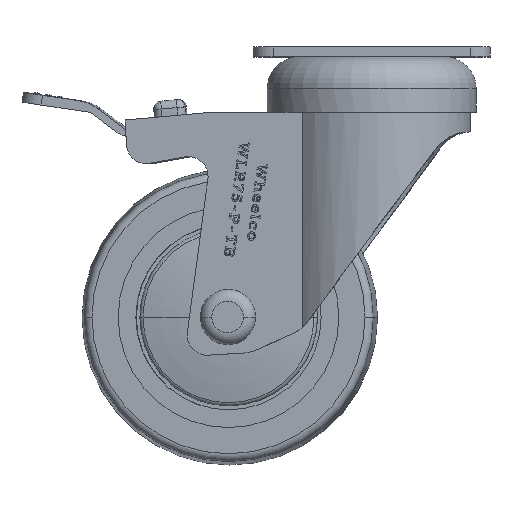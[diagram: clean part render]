
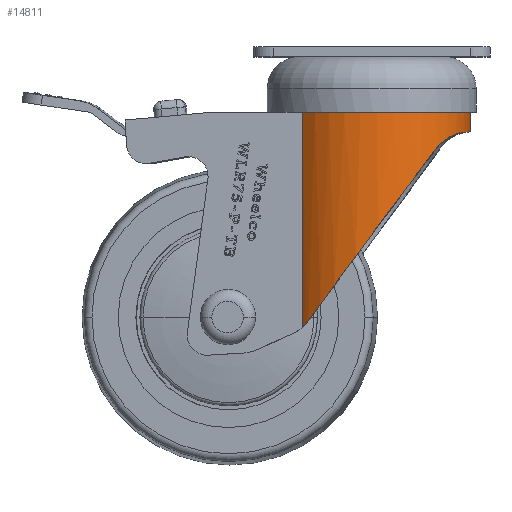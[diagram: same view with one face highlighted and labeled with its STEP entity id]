
A CAD part, top view. The second image highlights one B-rep face of the part: STEP entity #14811.
In plain terms, the highlighted cylindrical face has radius 25 mm (diameter 50 mm), a partial arc.
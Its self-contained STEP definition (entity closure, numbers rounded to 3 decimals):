
#33 = DIRECTION ( 'NONE',  ( 0., -1., 0. ) ) ;
#974 = CARTESIAN_POINT ( 'NONE',  ( -11.979, 5.485, -21.948 ) ) ;
#1087 = VERTEX_POINT ( 'NONE', #1194 ) ;
#1194 = CARTESIAN_POINT ( 'NONE',  ( -18.329, 9.043, -17.001 ) ) ;
#1326 = VERTEX_POINT ( 'NONE', #1745 ) ;
#1745 = CARTESIAN_POINT ( 'NONE',  ( 0., 5., -25. ) ) ;
#1767 = CARTESIAN_POINT ( 'NONE',  ( 0., 65., -25. ) ) ;
#1947 = DIRECTION ( 'NONE',  ( 0., 1., 0. ) ) ;
#2333 = VERTEX_POINT ( 'NONE', #18286 ) ;
#2493 =( BOUNDED_CURVE ( )  B_SPLINE_CURVE ( 3, ( #26680, #5559, #26821, #24751 ),
 .UNSPECIFIED., .F., .T. ) 
 B_SPLINE_CURVE_WITH_KNOTS ( ( 4, 4 ),
 ( 0.823, 2.242 ),
 .UNSPECIFIED. ) 
 CURVE ( )  GEOMETRIC_REPRESENTATION_ITEM ( )  RATIONAL_B_SPLINE_CURVE ( ( 1., 0.839, 0.839, 1. ) ) 
 REPRESENTATION_ITEM ( '' )  );
#2772 = EDGE_CURVE ( 'NONE', #21438, #18584, #7830, .T. ) ;
#3196 = CARTESIAN_POINT ( 'NONE',  ( 0., 5., -25. ) ) ;
#3517 = CARTESIAN_POINT ( 'NONE',  ( -18.25, 54.578, 17.086 ) ) ;
#3656 = CARTESIAN_POINT ( 'NONE',  ( -16.521, 7.199, -18.768 ) ) ;
#3791 = VECTOR ( 'NONE', #18597, 1000. ) ;
#3804 = CARTESIAN_POINT ( 'NONE',  ( -18.757, 54.114, 16.544 ) ) ;
#3891 = ORIENTED_EDGE ( 'NONE', *, *, #9387, .F. ) ;
#4619 = CARTESIAN_POINT ( 'NONE',  ( -16.215, 6.994, -19.033 ) ) ;
#4761 = CARTESIAN_POINT ( 'NONE',  ( -4.439, 5.007, -24.619 ) ) ;
#5072 = CIRCLE ( 'NONE', #26816, 25. ) ;
#5559 = CARTESIAN_POINT ( 'NONE',  ( -27.132, 21.837, -7.512 ) ) ;
#5905 = CARTESIAN_POINT ( 'NONE',  ( -19.571, 52.937, 15.556 ) ) ;
#6172 = DIRECTION ( 'NONE',  ( 0., 0., -1. ) ) ;
#6417 = DIRECTION ( 'NONE',  ( 0., 0., 1. ) ) ;
#6586 = CARTESIAN_POINT ( 'NONE',  ( -18.329, 9.043, -17.001 ) ) ;
#6623 = ORIENTED_EDGE ( 'NONE', *, *, #23636, .T. ) ;
#7108 = CARTESIAN_POINT ( 'NONE',  ( -11.191, 5.362, -22.36 ) ) ;
#7245 = CARTESIAN_POINT ( 'NONE',  ( -1.784, 5., -24.952 ) ) ;
#7264 = AXIS2_PLACEMENT_3D ( 'NONE', #16578, #33, #6172 ) ;
#7390 = CARTESIAN_POINT ( 'NONE',  ( -12.369, 5.558, -21.73 ) ) ;
#7704 = CARTESIAN_POINT ( 'NONE',  ( -19.196, 53.573, 16.027 ) ) ;
#7830 = LINE ( 'NONE', #27461, #21147 ) ;
#8181 = CARTESIAN_POINT ( 'NONE',  ( -19.571, 52.937, 15.556 ) ) ;
#9020 = ORIENTED_EDGE ( 'NONE', *, *, #2772, .F. ) ;
#9204 = CARTESIAN_POINT ( 'NONE',  ( -5.756, 5.024, -24.332 ) ) ;
#9387 = EDGE_CURVE ( 'NONE', #1087, #9652, #2493, .T. ) ;
#9652 = VERTEX_POINT ( 'NONE', #8181 ) ;
#10323 = FACE_OUTER_BOUND ( 'NONE', #10779, .T. ) ;
#10779 = EDGE_LOOP ( 'NONE', ( #15226, #12574, #23758, #9020, #6623, #3891 ) ) ;
#10913 = EDGE_CURVE ( 'NONE', #1087, #1326, #26145, .T. ) ;
#11146 = CARTESIAN_POINT ( 'NONE',  ( -6.194, 5.032, -24.225 ) ) ;
#11551 = CARTESIAN_POINT ( 'NONE',  ( -3.557, 5.003, -24.762 ) ) ;
#12574 = ORIENTED_EDGE ( 'NONE', *, *, #22265, .T. ) ;
#12684 = CARTESIAN_POINT ( 'NONE',  ( -18.25, 54.578, 17.086 ) ) ;
#12827 = EDGE_CURVE ( 'NONE', #2333, #18584, #5072, .T. ) ;
#13100 = CARTESIAN_POINT ( 'NONE',  ( -15.578, 6.626, -19.557 ) ) ;
#14571 = B_SPLINE_CURVE_WITH_KNOTS ( 'NONE', 3,
 ( #3517, #3804, #7704, #5905 ),
 .UNSPECIFIED., .F., .F.,
 ( 4, 4 ),
 ( 0., 0.003 ),
 .UNSPECIFIED. ) ;
#14811 = ADVANCED_FACE ( 'NONE', ( #10323 ), #20891, .T. ) ;
#15035 = CARTESIAN_POINT ( 'NONE',  ( 0., 0., 0. ) ) ;
#15226 = ORIENTED_EDGE ( 'NONE', *, *, #10913, .T. ) ;
#15541 = CARTESIAN_POINT ( 'NONE',  ( -18.25, 0., 17.086 ) ) ;
#15597 = CARTESIAN_POINT ( 'NONE',  ( -8.754, 5.125, -23.434 ) ) ;
#15874 = CARTESIAN_POINT ( 'NONE',  ( -0.894, 5., -25. ) ) ;
#16323 = CARTESIAN_POINT ( 'NONE',  ( -15.249, 6.464, -19.815 ) ) ;
#16578 = CARTESIAN_POINT ( 'NONE',  ( 0., 65., 0. ) ) ;
#17270 = CARTESIAN_POINT ( 'NONE',  ( -17.889, 8.404, -17.476 ) ) ;
#17544 = CARTESIAN_POINT ( 'NONE',  ( -13.509, 5.813, -21.054 ) ) ;
#18286 = CARTESIAN_POINT ( 'NONE',  ( 0., 0., -25. ) ) ;
#18584 = VERTEX_POINT ( 'NONE', #15541 ) ;
#18597 = DIRECTION ( 'NONE',  ( 0., -1., 0. ) ) ;
#19623 = CARTESIAN_POINT ( 'NONE',  ( -7.486, 5.068, -23.857 ) ) ;
#20891 = CYLINDRICAL_SURFACE ( 'NONE', #7264, 25. ) ;
#21147 = VECTOR ( 'NONE', #27314, 1000. ) ;
#21438 = VERTEX_POINT ( 'NONE', #12684 ) ;
#22256 = CARTESIAN_POINT ( 'NONE',  ( -7.058, 5.054, -23.987 ) ) ;
#22265 = EDGE_CURVE ( 'NONE', #1326, #2333, #25283, .T. ) ;
#23636 = EDGE_CURVE ( 'NONE', #21438, #9652, #14571, .T. ) ;
#23758 = ORIENTED_EDGE ( 'NONE', *, *, #12827, .T. ) ;
#24751 = CARTESIAN_POINT ( 'NONE',  ( -19.571, 52.937, 15.556 ) ) ;
#25283 = LINE ( 'NONE', #1767, #3791 ) ;
#25760 = CARTESIAN_POINT ( 'NONE',  ( -17.382, 7.872, -17.985 ) ) ;
#26038 = CARTESIAN_POINT ( 'NONE',  ( -9.581, 5.18, -23.108 ) ) ;
#26145 = B_SPLINE_CURVE_WITH_KNOTS ( 'NONE', 3,
 ( #6586, #17270, #25760, #3656, #4619, #13100, #16323, #26297, #17544, #7390, #974, #7108, #26440, #26038, #15597, #19623, #22256, #11146, #9204, #4761, #11551, #7245, #15874, #3196 ),
 .UNSPECIFIED., .F., .F.,
 ( 4, 2, 2, 2, 2, 2, 2, 2, 2, 2, 2, 4 ),
 ( 0., 0.003, 0.004, 0.005, 0.008, 0.009, 0.011, 0.013, 0.015, 0.016, 0.019, 0.021 ),
 .UNSPECIFIED. ) ;
#26297 = CARTESIAN_POINT ( 'NONE',  ( -14.23, 6.031, -20.572 ) ) ;
#26440 = CARTESIAN_POINT ( 'NONE',  ( -10.792, 5.31, -22.555 ) ) ;
#26680 = CARTESIAN_POINT ( 'NONE',  ( -18.329, 9.043, -17.001 ) ) ;
#26816 = AXIS2_PLACEMENT_3D ( 'NONE', #15035, #1947, #6417 ) ;
#26821 = CARTESIAN_POINT ( 'NONE',  ( -27.625, 39.276, 5.423 ) ) ;
#27314 = DIRECTION ( 'NONE',  ( 0., -1., 0. ) ) ;
#27461 = CARTESIAN_POINT ( 'NONE',  ( -18.25, 65., 17.086 ) ) ;
